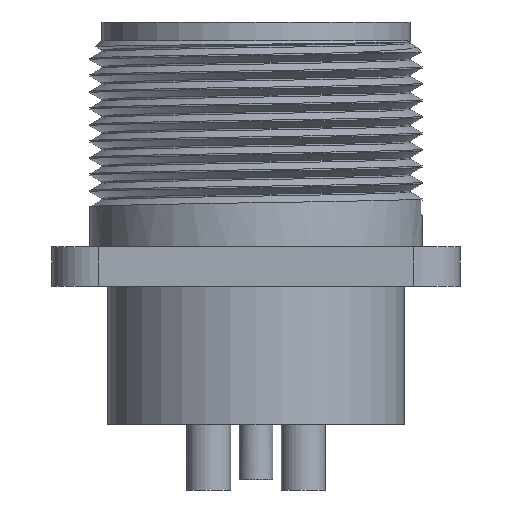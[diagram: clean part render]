
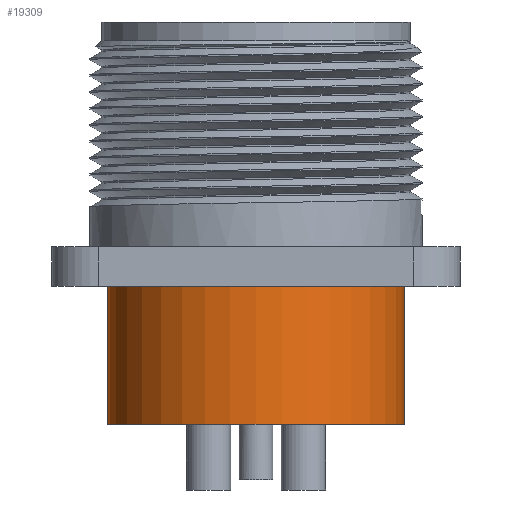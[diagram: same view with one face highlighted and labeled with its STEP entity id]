
A CAD part, front view. The second image highlights one B-rep face of the part: STEP entity #19309.
In plain terms, the highlighted cylindrical face has radius 12.7 mm (diameter 25.4 mm), a partial arc.
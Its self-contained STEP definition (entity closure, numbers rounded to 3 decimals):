
#233 = FACE_OUTER_BOUND ( 'NONE', #13843, .T. ) ;
#1761 = EDGE_CURVE ( 'NONE', #24563, #7956, #15053, .T. ) ;
#5286 = CYLINDRICAL_SURFACE ( 'NONE', #26760, 12.7 ) ;
#5933 = CARTESIAN_POINT ( 'NONE',  ( 12.7, 0., -22.59 ) ) ;
#6386 = CARTESIAN_POINT ( 'NONE',  ( 12.7, 0., -34.4 ) ) ;
#7154 = DIRECTION ( 'NONE',  ( 0., 0., 1. ) ) ;
#7202 = AXIS2_PLACEMENT_3D ( 'NONE', #9325, #24380, #11464 ) ;
#7956 = VERTEX_POINT ( 'NONE', #5933 ) ;
#8475 = EDGE_CURVE ( 'NONE', #14804, #25891, #25951, .T. ) ;
#8824 = DIRECTION ( 'NONE',  ( 0., 0., 1. ) ) ;
#9325 = CARTESIAN_POINT ( 'NONE',  ( 0., 0., -22.59 ) ) ;
#9962 = CARTESIAN_POINT ( 'NONE',  ( 0., 0., -34.4 ) ) ;
#11058 = AXIS2_PLACEMENT_3D ( 'NONE', #9962, #25003, #12097 ) ;
#11059 = DIRECTION ( 'NONE',  ( 1., 0., 0. ) ) ;
#11464 = DIRECTION ( 'NONE',  ( 1., 0., 0. ) ) ;
#12097 = DIRECTION ( 'NONE',  ( -1., 0., 0. ) ) ;
#13225 = DIRECTION ( 'NONE',  ( 0., 0., 1. ) ) ;
#13260 = ORIENTED_EDGE ( 'NONE', *, *, #17792, .F. ) ;
#13644 = CARTESIAN_POINT ( 'NONE',  ( -12.7, 0., -34.4 ) ) ;
#13843 = EDGE_LOOP ( 'NONE', ( #20852, #13260, #19044, #24677 ) ) ;
#14108 = CIRCLE ( 'NONE', #7202, 12.7 ) ;
#14804 = VERTEX_POINT ( 'NONE', #13644 ) ;
#14940 = CARTESIAN_POINT ( 'NONE',  ( -12.7, 0., -22.59 ) ) ;
#15053 = LINE ( 'NONE', #20036, #20781 ) ;
#17792 = EDGE_CURVE ( 'NONE', #24563, #14804, #26855, .T. ) ;
#19044 = ORIENTED_EDGE ( 'NONE', *, *, #1761, .T. ) ;
#19309 = ADVANCED_FACE ( 'NONE', ( #233 ), #5286, .T. ) ;
#20036 = CARTESIAN_POINT ( 'NONE',  ( 12.7, 0., -34.4 ) ) ;
#20246 = VECTOR ( 'NONE', #13225, 1000. ) ;
#20781 = VECTOR ( 'NONE', #7154, 1000. ) ;
#20852 = ORIENTED_EDGE ( 'NONE', *, *, #8475, .F. ) ;
#23975 = CARTESIAN_POINT ( 'NONE',  ( 0., 0., -34.4 ) ) ;
#23976 = CARTESIAN_POINT ( 'NONE',  ( -12.7, 0., -34.4 ) ) ;
#24380 = DIRECTION ( 'NONE',  ( 0., 0., -1. ) ) ;
#24563 = VERTEX_POINT ( 'NONE', #6386 ) ;
#24677 = ORIENTED_EDGE ( 'NONE', *, *, #25525, .T. ) ;
#25003 = DIRECTION ( 'NONE',  ( 0., 0., -1. ) ) ;
#25525 = EDGE_CURVE ( 'NONE', #7956, #25891, #14108, .T. ) ;
#25891 = VERTEX_POINT ( 'NONE', #14940 ) ;
#25951 = LINE ( 'NONE', #23976, #20246 ) ;
#26760 = AXIS2_PLACEMENT_3D ( 'NONE', #23975, #8824, #11059 ) ;
#26855 = CIRCLE ( 'NONE', #11058, 12.7 ) ;
